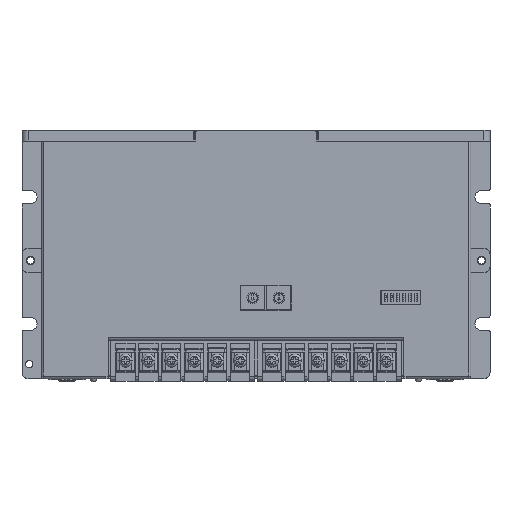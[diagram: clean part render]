
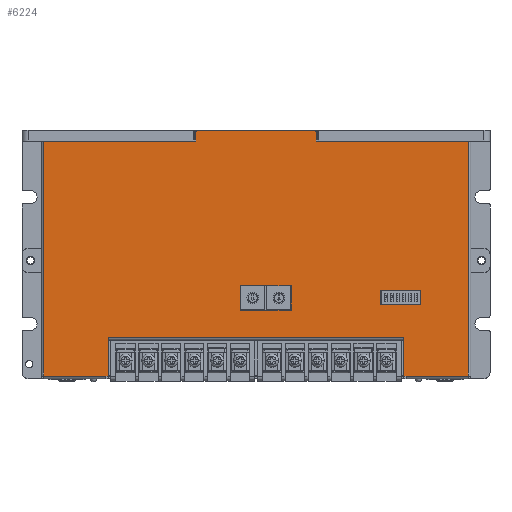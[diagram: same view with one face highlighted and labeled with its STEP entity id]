
A CAD part, front view. The second image highlights one B-rep face of the part: STEP entity #6224.
In plain terms, the highlighted planar face has unit normal (0, -1, 0).
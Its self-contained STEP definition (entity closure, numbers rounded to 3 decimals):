
#3739=DIRECTION('',(0.,0.,1.));
#3740=VECTOR('',#3739,10.2);
#3741=CARTESIAN_POINT('',(14.6,-5.4,-69.103));
#3742=LINE('',#3741,#3740);
#3743=DIRECTION('',(-1.,0.,0.));
#3744=VECTOR('',#3743,21.1);
#3745=CARTESIAN_POINT('',(14.6,-5.4,-58.903));
#3746=LINE('',#3745,#3744);
#3747=DIRECTION('',(0.,0.,-1.));
#3748=VECTOR('',#3747,10.2);
#3749=CARTESIAN_POINT('',(-6.5,-5.4,-58.903));
#3750=LINE('',#3749,#3748);
#3751=DIRECTION('',(1.,0.,0.));
#3752=VECTOR('',#3751,21.1);
#3753=CARTESIAN_POINT('',(-6.5,-5.4,-69.103));
#3754=LINE('',#3753,#3752);
#3755=DIRECTION('',(0.,0.,-1.));
#3756=VECTOR('',#3755,6.);
#3757=CARTESIAN_POINT('',(51.75,-5.4,-60.823));
#3758=LINE('',#3757,#3756);
#3759=DIRECTION('',(1.,0.,0.));
#3760=VECTOR('',#3759,16.643);
#3761=CARTESIAN_POINT('',(51.75,-5.4,-66.823));
#3762=LINE('',#3761,#3760);
#3763=DIRECTION('',(0.,0.,1.));
#3764=VECTOR('',#3763,6.);
#3765=CARTESIAN_POINT('',(68.393,-5.4,-66.823));
#3766=LINE('',#3765,#3764);
#3767=DIRECTION('',(-1.,0.,0.));
#3768=VECTOR('',#3767,16.643);
#3769=CARTESIAN_POINT('',(68.393,-5.4,-60.823));
#3770=LINE('',#3769,#3768);
#3771=DIRECTION('',(0.,0.,-1.));
#3772=VECTOR('',#3771,97.4);
#3773=CARTESIAN_POINT('',(-88.,-5.4,1.));
#3774=LINE('',#3773,#3772);
#3775=DIRECTION('',(1.,0.,0.));
#3776=VECTOR('',#3775,63.);
#3777=CARTESIAN_POINT('',(-88.,-5.4,1.));
#3778=LINE('',#3777,#3776);
#3779=DIRECTION('',(0.,0.,-1.));
#3780=VECTOR('',#3779,3.5);
#3781=CARTESIAN_POINT('',(-25.,-5.4,4.5));
#3782=LINE('',#3781,#3780);
#3783=CARTESIAN_POINT('',(-24.,-5.4,4.5));
#3784=DIRECTION('',(0.,-1.,0.));
#3785=DIRECTION('',(0.,0.,1.));
#3786=AXIS2_PLACEMENT_3D('',#3783,#3784,#3785);
#3788=DIRECTION('',(-1.,0.,0.));
#3789=VECTOR('',#3788,48.);
#3790=CARTESIAN_POINT('',(24.,-5.4,5.5));
#3791=LINE('',#3790,#3789);
#3792=CARTESIAN_POINT('',(24.,-5.4,4.5));
#3793=DIRECTION('',(0.,-1.,0.));
#3794=DIRECTION('',(1.,0.,0.));
#3795=AXIS2_PLACEMENT_3D('',#3792,#3793,#3794);
#3797=DIRECTION('',(0.,0.,1.));
#3798=VECTOR('',#3797,3.5);
#3799=CARTESIAN_POINT('',(25.,-5.4,1.));
#3800=LINE('',#3799,#3798);
#3801=DIRECTION('',(1.,0.,0.));
#3802=VECTOR('',#3801,63.);
#3803=CARTESIAN_POINT('',(25.,-5.4,1.));
#3804=LINE('',#3803,#3802);
#3805=DIRECTION('',(0.,0.,1.));
#3806=VECTOR('',#3805,97.4);
#3807=CARTESIAN_POINT('',(88.,-5.4,-96.4));
#3808=LINE('',#3807,#3806);
#3809=DIRECTION('',(-1.,0.,0.));
#3810=VECTOR('',#3809,25.8);
#3811=CARTESIAN_POINT('',(88.,-5.4,-96.5));
#3812=LINE('',#3811,#3810);
#3813=DIRECTION('',(1.,0.,0.));
#3814=VECTOR('',#3813,1.);
#3815=CARTESIAN_POINT('',(61.2,-5.4,-96.4));
#3816=LINE('',#3815,#3814);
#3817=DIRECTION('',(-1.,0.,0.));
#3818=VECTOR('',#3817,122.4);
#3819=CARTESIAN_POINT('',(61.2,-5.4,-80.503));
#3820=LINE('',#3819,#3818);
#3821=DIRECTION('',(1.,0.,0.));
#3822=VECTOR('',#3821,1.);
#3823=CARTESIAN_POINT('',(-62.2,-5.4,-96.4));
#3824=LINE('',#3823,#3822);
#3825=DIRECTION('',(-1.,0.,0.));
#3826=VECTOR('',#3825,25.8);
#3827=CARTESIAN_POINT('',(-62.2,-5.4,-96.5));
#3828=LINE('',#3827,#3826);
#5045=DIRECTION('',(0.,0.,1.));
#5046=VECTOR('',#5045,0.1);
#5047=CARTESIAN_POINT('',(88.,-5.4,-96.5));
#5048=LINE('',#5047,#5046);
#5361=DIRECTION('',(0.,0.,-1.));
#5362=VECTOR('',#5361,15.897);
#5363=CARTESIAN_POINT('',(61.2,-5.4,-80.503));
#5364=LINE('',#5363,#5362);
#5385=DIRECTION('',(0.,0.,1.));
#5386=VECTOR('',#5385,15.897);
#5387=CARTESIAN_POINT('',(-61.2,-5.4,-96.4));
#5388=LINE('',#5387,#5386);
#5508=DIRECTION('',(0.,0.,1.));
#5509=VECTOR('',#5508,0.1);
#5510=CARTESIAN_POINT('',(-62.2,-5.4,-96.5));
#5511=LINE('',#5510,#5509);
#5516=DIRECTION('',(0.,0.,-1.));
#5517=VECTOR('',#5516,0.1);
#5518=CARTESIAN_POINT('',(-88.,-5.4,-96.4));
#5519=LINE('',#5518,#5517);
#5551=DIRECTION('',(0.,0.,-1.));
#5552=VECTOR('',#5551,0.1);
#5553=CARTESIAN_POINT('',(62.2,-5.4,-96.4));
#5554=LINE('',#5553,#5552);
#5717=CARTESIAN_POINT('',(61.2,-5.4,-96.4));
#5718=VERTEX_POINT('',#5717);
#5719=CARTESIAN_POINT('',(-61.2,-5.4,-96.4));
#5720=VERTEX_POINT('',#5719);
#5721=CARTESIAN_POINT('',(62.2,-5.4,-96.4));
#5722=VERTEX_POINT('',#5721);
#5723=CARTESIAN_POINT('',(-62.2,-5.4,-96.4));
#5724=VERTEX_POINT('',#5723);
#5737=CARTESIAN_POINT('',(-62.2,-5.4,-96.5));
#5739=VERTEX_POINT('',#5737);
#5742=CARTESIAN_POINT('',(62.2,-5.4,-96.5));
#5744=VERTEX_POINT('',#5742);
#5749=CARTESIAN_POINT('',(-24.,-5.4,5.5));
#5750=VERTEX_POINT('',#5749);
#5751=CARTESIAN_POINT('',(-25.,-5.4,4.5));
#5752=VERTEX_POINT('',#5751);
#5757=CARTESIAN_POINT('',(25.,-5.4,4.5));
#5758=VERTEX_POINT('',#5757);
#5759=CARTESIAN_POINT('',(24.,-5.4,5.5));
#5760=VERTEX_POINT('',#5759);
#5761=CARTESIAN_POINT('',(25.,-5.4,1.));
#5763=VERTEX_POINT('',#5761);
#5765=CARTESIAN_POINT('',(-25.,-5.4,1.));
#5767=VERTEX_POINT('',#5765);
#5777=CARTESIAN_POINT('',(88.,-5.4,-96.5));
#5779=VERTEX_POINT('',#5777);
#5815=CARTESIAN_POINT('',(88.,-5.4,1.));
#5817=VERTEX_POINT('',#5815);
#5821=CARTESIAN_POINT('',(88.,-5.4,-96.4));
#5822=VERTEX_POINT('',#5821);
#5863=CARTESIAN_POINT('',(14.6,-5.4,-69.103));
#5864=CARTESIAN_POINT('',(14.6,-5.4,-58.903));
#5865=VERTEX_POINT('',#5863);
#5866=VERTEX_POINT('',#5864);
#5867=CARTESIAN_POINT('',(-6.5,-5.4,-58.903));
#5868=VERTEX_POINT('',#5867);
#5869=CARTESIAN_POINT('',(-6.5,-5.4,-69.103));
#5870=VERTEX_POINT('',#5869);
#5871=CARTESIAN_POINT('',(51.75,-5.4,-60.823));
#5872=CARTESIAN_POINT('',(51.75,-5.4,-66.823));
#5873=VERTEX_POINT('',#5871);
#5874=VERTEX_POINT('',#5872);
#5875=CARTESIAN_POINT('',(68.393,-5.4,-66.823));
#5876=VERTEX_POINT('',#5875);
#5877=CARTESIAN_POINT('',(68.393,-5.4,-60.823));
#5878=VERTEX_POINT('',#5877);
#6016=CARTESIAN_POINT('',(-88.,-5.4,-96.5));
#6018=VERTEX_POINT('',#6016);
#6069=CARTESIAN_POINT('',(-88.,-5.4,-96.4));
#6071=VERTEX_POINT('',#6069);
#6075=CARTESIAN_POINT('',(-88.,-5.4,1.));
#6076=VERTEX_POINT('',#6075);
#6153=CARTESIAN_POINT('',(61.2,-5.4,-80.503));
#6154=CARTESIAN_POINT('',(-61.2,-5.4,-80.503));
#6155=VERTEX_POINT('',#6153);
#6156=VERTEX_POINT('',#6154);
#6157=CARTESIAN_POINT('',(-97.,-5.4,0.));
#6158=DIRECTION('',(0.,-1.,0.));
#6159=DIRECTION('',(1.,0.,0.));
#6160=AXIS2_PLACEMENT_3D('',#6157,#6158,#6159);
#6161=PLANE('',#6160);
#6163=ORIENTED_EDGE('',*,*,#6162,.F.);
#6165=ORIENTED_EDGE('',*,*,#6164,.T.);
#6167=ORIENTED_EDGE('',*,*,#6166,.F.);
#6169=ORIENTED_EDGE('',*,*,#6168,.F.);
#6171=ORIENTED_EDGE('',*,*,#6170,.F.);
#6173=ORIENTED_EDGE('',*,*,#6172,.F.);
#6175=ORIENTED_EDGE('',*,*,#6174,.F.);
#6177=ORIENTED_EDGE('',*,*,#6176,.T.);
#6179=ORIENTED_EDGE('',*,*,#6178,.F.);
#6181=ORIENTED_EDGE('',*,*,#6180,.F.);
#6183=ORIENTED_EDGE('',*,*,#6182,.T.);
#6185=ORIENTED_EDGE('',*,*,#6184,.F.);
#6187=ORIENTED_EDGE('',*,*,#6186,.F.);
#6189=ORIENTED_EDGE('',*,*,#6188,.F.);
#6191=ORIENTED_EDGE('',*,*,#6190,.T.);
#6193=ORIENTED_EDGE('',*,*,#6192,.F.);
#6195=ORIENTED_EDGE('',*,*,#6194,.F.);
#6197=ORIENTED_EDGE('',*,*,#6196,.F.);
#6199=ORIENTED_EDGE('',*,*,#6198,.T.);
#6201=ORIENTED_EDGE('',*,*,#6200,.F.);
#6202=EDGE_LOOP('',(#6163,#6165,#6167,#6169,#6171,#6173,#6175,#6177,#6179,#6181,
#6183,#6185,#6187,#6189,#6191,#6193,#6195,#6197,#6199,#6201));
#6203=FACE_OUTER_BOUND('',#6202,.F.);
#6205=ORIENTED_EDGE('',*,*,#6204,.T.);
#6207=ORIENTED_EDGE('',*,*,#6206,.T.);
#6209=ORIENTED_EDGE('',*,*,#6208,.T.);
#6211=ORIENTED_EDGE('',*,*,#6210,.T.);
#6212=EDGE_LOOP('',(#6205,#6207,#6209,#6211));
#6213=FACE_BOUND('',#6212,.F.);
#6215=ORIENTED_EDGE('',*,*,#6214,.T.);
#6217=ORIENTED_EDGE('',*,*,#6216,.T.);
#6219=ORIENTED_EDGE('',*,*,#6218,.T.);
#6221=ORIENTED_EDGE('',*,*,#6220,.T.);
#6222=EDGE_LOOP('',(#6215,#6217,#6219,#6221));
#6223=FACE_BOUND('',#6222,.F.);
#6224=ADVANCED_FACE('',(#6203,#6213,#6223),#6161,.T.);
#3787=CIRCLE('',#3786,1.);
#3796=CIRCLE('',#3795,1.);
#6162=EDGE_CURVE('',#6076,#6071,#3774,.T.);
#6164=EDGE_CURVE('',#6076,#5767,#3778,.T.);
#6166=EDGE_CURVE('',#5752,#5767,#3782,.T.);
#6168=EDGE_CURVE('',#5750,#5752,#3787,.T.);
#6170=EDGE_CURVE('',#5760,#5750,#3791,.T.);
#6172=EDGE_CURVE('',#5758,#5760,#3796,.T.);
#6174=EDGE_CURVE('',#5763,#5758,#3800,.T.);
#6176=EDGE_CURVE('',#5763,#5817,#3804,.T.);
#6178=EDGE_CURVE('',#5822,#5817,#3808,.T.);
#6180=EDGE_CURVE('',#5779,#5822,#5048,.T.);
#6182=EDGE_CURVE('',#5779,#5744,#3812,.T.);
#6184=EDGE_CURVE('',#5722,#5744,#5554,.T.);
#6186=EDGE_CURVE('',#5718,#5722,#3816,.T.);
#6188=EDGE_CURVE('',#6155,#5718,#5364,.T.);
#6190=EDGE_CURVE('',#6155,#6156,#3820,.T.);
#6192=EDGE_CURVE('',#5720,#6156,#5388,.T.);
#6194=EDGE_CURVE('',#5724,#5720,#3824,.T.);
#6196=EDGE_CURVE('',#5739,#5724,#5511,.T.);
#6198=EDGE_CURVE('',#5739,#6018,#3828,.T.);
#6200=EDGE_CURVE('',#6071,#6018,#5519,.T.);
#6204=EDGE_CURVE('',#5873,#5874,#3758,.T.);
#6206=EDGE_CURVE('',#5874,#5876,#3762,.T.);
#6208=EDGE_CURVE('',#5876,#5878,#3766,.T.);
#6210=EDGE_CURVE('',#5878,#5873,#3770,.T.);
#6214=EDGE_CURVE('',#5865,#5866,#3742,.T.);
#6216=EDGE_CURVE('',#5866,#5868,#3746,.T.);
#6218=EDGE_CURVE('',#5868,#5870,#3750,.T.);
#6220=EDGE_CURVE('',#5870,#5865,#3754,.T.);
